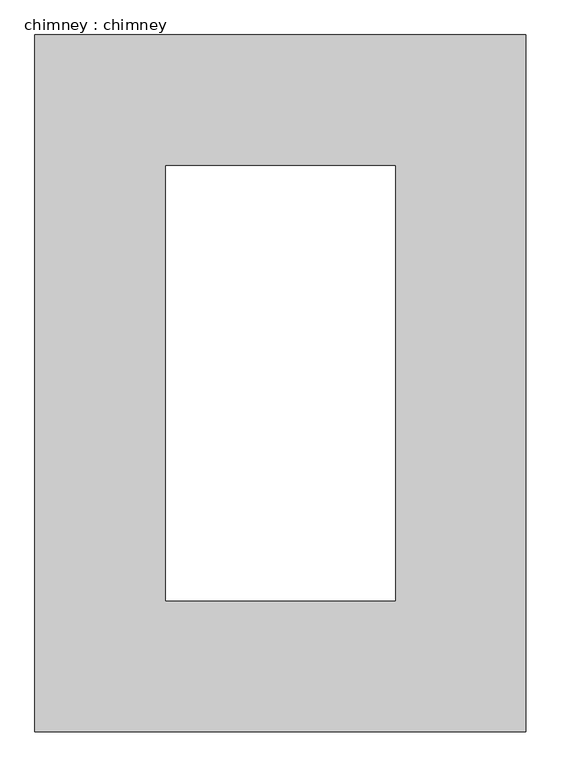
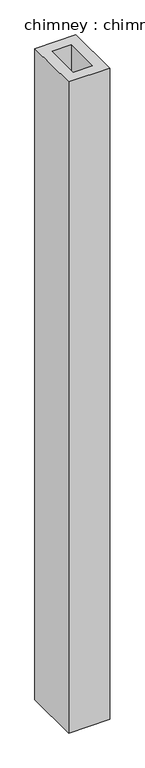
"""IFC4 building model written with IfcOpenShell, lengths in millimetres: proxy geometry, chimney : chimney."""

from ifc_helpers import new_model, si_unit, origin, origin_with_axes, place, context, project, spatial, polyline, outline, extrude, source, transform, mapped, element, save


def chimney_chimney_af68f421(model_context):
    return source(origin(), model_context, "Body", "SweptSolid", [
        extrude(outline(polyline([(-157386.5354666, 11905.5437199), (-158113.6104666, 11905.5437199), (-158113.6104666, 12937.4187199), (-157386.5354666, 12937.4187199), (-157386.5354666, 11905.5437199)]), holes=[polyline([(-157580.2104666, 12099.2187199), (-157580.2104666, 12743.7437199), (-157919.9354666, 12743.7437199), (-157919.9354666, 12099.2187199), (-157580.2104666, 12099.2187199)])]), origin_with_axes(), (0.0, 0.0, 1.0), 12192.0),
    ])


if __name__ == "__main__":
    model = new_model("IFC4")
    model_context = context("Model", 3, world=origin())
    ifc_project = project(units=[si_unit("LENGTHUNIT", "METRE", prefix="MILLI")], contexts=[model_context])
    site = spatial("IfcSite", under=ifc_project)
    building = spatial("IfcBuilding", under=site)
    placement = place(None, origin())
    chimney_chimney_shape = chimney_chimney_af68f421(model_context)
    element("IfcBuildingElementProxy", 1, Name="chimney : chimney", ObjectType="chimney : chimney", at=placement, inside=building, context=model_context, shape_type="MappedRepresentation", body=[
        mapped(chimney_chimney_shape, transform((0.0, 0.0, 0.0), x_axis=(1.0, 0.0, 0.0), y_axis=(0.0, 1.0, 0.0), z_axis=(0.0, 0.0, 1.0))),
    ])
    save(model, "model.ifc")
